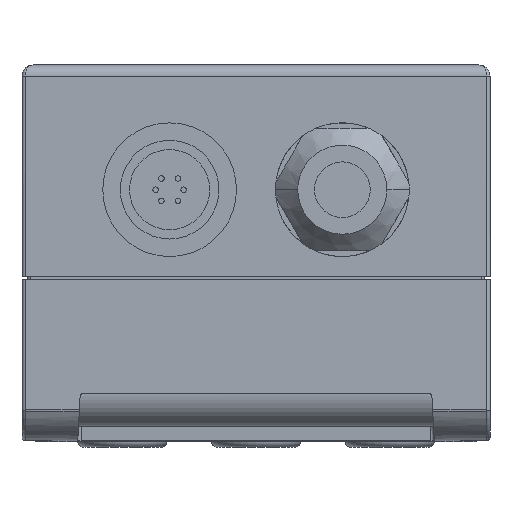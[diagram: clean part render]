
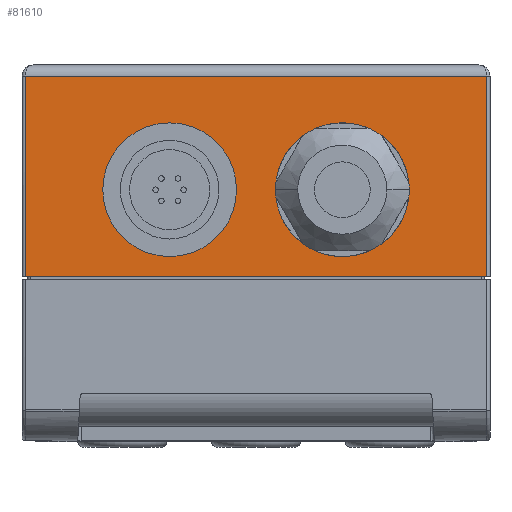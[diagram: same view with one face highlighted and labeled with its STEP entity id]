
A CAD part, front view. The second image highlights one B-rep face of the part: STEP entity #81610.
In plain terms, the highlighted planar face has unit normal (0, -1, 0).
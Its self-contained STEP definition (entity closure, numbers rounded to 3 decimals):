
#49130=CARTESIAN_POINT('',(149.444,44.625,
-4.6));
#49140=VERTEX_POINT('',#49130);
#49220=CARTESIAN_POINT('',(161.444,44.625,
-4.6));
#49230=VERTEX_POINT('',#49220);
#49260=CARTESIAN_POINT('',(155.444,44.625,
-4.6));
#49270=DIRECTION('',(0.,-1.,0.));
#49280=DIRECTION('',(1.,0.,0.));
#49290=AXIS2_PLACEMENT_3D('',#49260,#49270,#49280);
#49300=CIRCLE('',#49290,6.);
#49310=EDGE_CURVE('',#49140,#49230,#49300,.T.);
#79330=CARTESIAN_POINT('',(126.994,44.625,3.2));
#79340=VERTEX_POINT('',#79330);
#79860=CARTESIAN_POINT('',(168.394,44.625,3.2));
#79870=VERTEX_POINT('',#79860);
#79900=CARTESIAN_POINT('',(133.584,44.625,3.2));
#79910=DIRECTION('',(1.,0.,0.));
#79920=VECTOR('',#79910,1.);
#79930=LINE('',#79900,#79920);
#79940=EDGE_CURVE('',#79340,#79870,#79930,.T.);
#81110=CARTESIAN_POINT('',(162.853,44.625,
-2.948));
#81120=DIRECTION('',(0.,-1.,0.));
#81130=DIRECTION('',(-1.,0.,0.));
#81140=AXIS2_PLACEMENT_3D('',#81110,#81120,#81130);
#81150=PLANE('',#81140);
#81160=CARTESIAN_POINT('',(369.608,44.625,-14.8));
#81170=DIRECTION('',(-1.,0.,0.));
#81180=VECTOR('',#81170,1.);
#81190=LINE('',#81160,#81180);
#81200=CARTESIAN_POINT('',(168.394,44.625,-14.8));
#81210=VERTEX_POINT('',#81200);
#81220=CARTESIAN_POINT('',(126.994,44.625,-14.8));
#81230=VERTEX_POINT('',#81220);
#81240=EDGE_CURVE('',#81210,#81230,#81190,.T.);
#81250=ORIENTED_EDGE('',*,*,#81240,.F.);
#81260=CARTESIAN_POINT('',(126.994,44.625,4.1));
#81270=DIRECTION('',(0.,0.,-1.));
#81280=VECTOR('',#81270,1.);
#81290=LINE('',#81260,#81280);
#81300=EDGE_CURVE('',#79340,#81230,#81290,.T.);
#81310=ORIENTED_EDGE('',*,*,#81300,.T.);
#81320=ORIENTED_EDGE('',*,*,#79940,.F.);
#81330=CARTESIAN_POINT('',(168.394,44.625,7.3));
#81340=DIRECTION('',(0.,0.,-1.));
#81350=VECTOR('',#81340,1.);
#81360=LINE('',#81330,#81350);
#81370=EDGE_CURVE('',#79870,#81210,#81360,.T.);
#81380=ORIENTED_EDGE('',*,*,#81370,.F.);
#81390=EDGE_LOOP('',(#81380,#81320,#81310,#81250));
#81400=FACE_OUTER_BOUND('',#81390,.T.);
#81410=CARTESIAN_POINT('',(139.944,44.625,
-4.6));
#81420=DIRECTION('',(0.,-1.,0.));
#81430=DIRECTION('',(-1.,0.,0.));
#81440=AXIS2_PLACEMENT_3D('',#81410,#81420,#81430);
#81450=CIRCLE('',#81440,6.);
#81460=CARTESIAN_POINT('',(133.944,44.625,
-4.6));
#81470=VERTEX_POINT('',#81460);
#81480=CARTESIAN_POINT('',(145.944,44.625,
-4.6));
#81490=VERTEX_POINT('',#81480);
#81500=EDGE_CURVE('',#81470,#81490,#81450,.T.);
#81510=ORIENTED_EDGE('',*,*,#81500,.F.);
#81520=EDGE_CURVE('',#81490,#81470,#81450,.T.);
#81530=ORIENTED_EDGE('',*,*,#81520,.F.);
#81540=EDGE_LOOP('',(#81530,#81510));
#81550=FACE_BOUND('',#81540,.T.);
#81560=EDGE_CURVE('',#49230,#49140,#49300,.T.);
#81570=ORIENTED_EDGE('',*,*,#81560,.F.);
#81580=ORIENTED_EDGE('',*,*,#49310,.F.);
#81590=EDGE_LOOP('',(#81580,#81570));
#81600=FACE_BOUND('',#81590,.T.);
#81610=ADVANCED_FACE('',(#81400,#81550,#81600),#81150,.T.);
